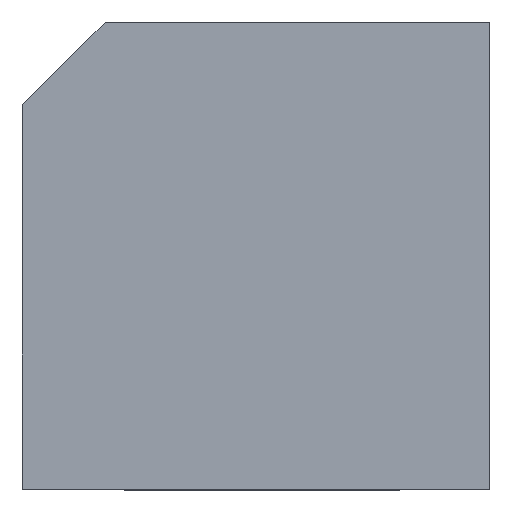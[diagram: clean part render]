
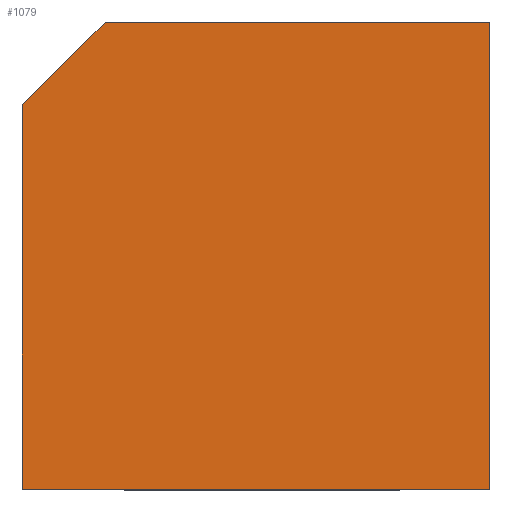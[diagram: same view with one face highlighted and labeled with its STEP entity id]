
A CAD part, top view. The second image highlights one B-rep face of the part: STEP entity #1079.
In plain terms, the highlighted planar face has unit normal (0, 0, 1).
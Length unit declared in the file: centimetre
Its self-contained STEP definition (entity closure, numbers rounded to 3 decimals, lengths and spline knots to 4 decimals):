
#19 = CARTESIAN_POINT ( 'NONE',  ( 0., 1000., 1000. ) ) ;
#27 = ORIENTED_EDGE ( 'NONE', *, *, #1023, .T. ) ;
#43 = FACE_OUTER_BOUND ( 'NONE', #586, .T. ) ;
#45 = EDGE_CURVE ( 'NONE', #1009, #1220, #724, .T. ) ;
#47 = VERTEX_POINT ( 'NONE', #540 ) ;
#49 = CARTESIAN_POINT ( 'NONE',  ( 0., 1000., 1000. ) ) ;
#61 = PLANE ( 'NONE',  #193 ) ;
#64 = EDGE_CURVE ( 'NONE', #781, #1009, #411, .T. ) ;
#66 = ORIENTED_EDGE ( 'NONE', *, *, #45, .T. ) ;
#84 = CARTESIAN_POINT ( 'NONE',  ( 0., 823.0721, 1000. ) ) ;
#165 = DIRECTION ( 'NONE',  ( 1., 0., 0. ) ) ;
#177 = VECTOR ( 'NONE', #697, 100. ) ;
#193 = AXIS2_PLACEMENT_3D ( 'NONE', #1191, #630, #536 ) ;
#345 = DIRECTION ( 'NONE',  ( -1., 0., 0. ) ) ;
#348 = CARTESIAN_POINT ( 'NONE',  ( 1000., 1000., 1000. ) ) ;
#400 = CARTESIAN_POINT ( 'NONE',  ( 0., 0., 1000. ) ) ;
#411 = LINE ( 'NONE', #19, #1186 ) ;
#422 = LINE ( 'NONE', #49, #632 ) ;
#515 = ORIENTED_EDGE ( 'NONE', *, *, #899, .T. ) ;
#536 = DIRECTION ( 'NONE',  ( 1., 0., 0. ) ) ;
#540 = CARTESIAN_POINT ( 'NONE',  ( 176.9279, 1000., 1000. ) ) ;
#558 = LINE ( 'NONE', #682, #177 ) ;
#586 = EDGE_LOOP ( 'NONE', ( #1188, #515, #896, #66, #27 ) ) ;
#630 = DIRECTION ( 'NONE',  ( 0., 0., 1. ) ) ;
#632 = VECTOR ( 'NONE', #345, 100. ) ;
#682 = CARTESIAN_POINT ( 'NONE',  ( -411.5361, 411.5361, 1000. ) ) ;
#684 = DIRECTION ( 'NONE',  ( 0., -1., 0. ) ) ;
#689 = DIRECTION ( 'NONE',  ( 0., 1., 0. ) ) ;
#694 = VERTEX_POINT ( 'NONE', #348 ) ;
#697 = DIRECTION ( 'NONE',  ( -0.707, -0.707, 0. ) ) ;
#724 = LINE ( 'NONE', #1097, #1062 ) ;
#760 = LINE ( 'NONE', #1133, #807 ) ;
#781 = VERTEX_POINT ( 'NONE', #84 ) ;
#807 = VECTOR ( 'NONE', #689, 100. ) ;
#896 = ORIENTED_EDGE ( 'NONE', *, *, #64, .T. ) ;
#899 = EDGE_CURVE ( 'NONE', #47, #781, #558, .T. ) ;
#1009 = VERTEX_POINT ( 'NONE', #400 ) ;
#1023 = EDGE_CURVE ( 'NONE', #1220, #694, #760, .T. ) ;
#1062 = VECTOR ( 'NONE', #165, 100. ) ;
#1079 = ADVANCED_FACE ( 'NONE', ( #43 ), #61, .T. ) ;
#1095 = EDGE_CURVE ( 'NONE', #694, #47, #422, .T. ) ;
#1097 = CARTESIAN_POINT ( 'NONE',  ( 0., 0., 1000. ) ) ;
#1107 = CARTESIAN_POINT ( 'NONE',  ( 1000., 0., 1000. ) ) ;
#1133 = CARTESIAN_POINT ( 'NONE',  ( 1000., 1000., 1000. ) ) ;
#1186 = VECTOR ( 'NONE', #684, 100. ) ;
#1188 = ORIENTED_EDGE ( 'NONE', *, *, #1095, .T. ) ;
#1191 = CARTESIAN_POINT ( 'NONE',  ( 0., 0., 1000. ) ) ;
#1220 = VERTEX_POINT ( 'NONE', #1107 ) ;
